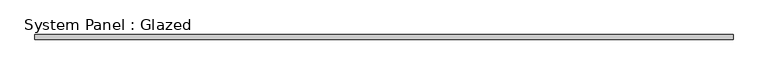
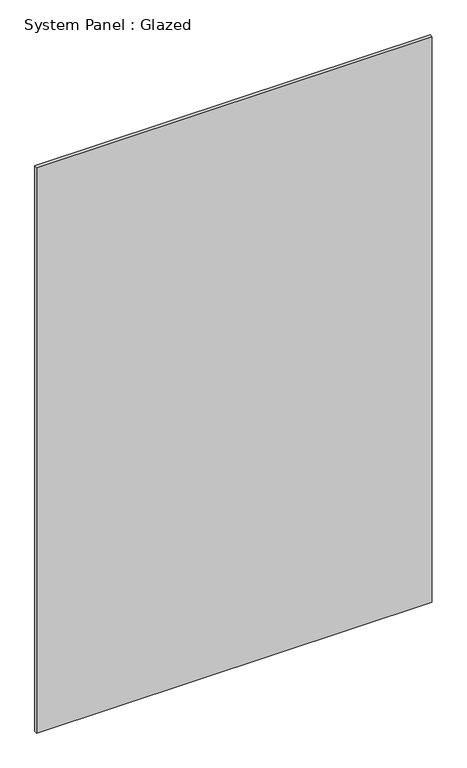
"""IFC4 building model written with IfcOpenShell, lengths in millimetres: plate geometry, System Panel : Glazed."""

from ifc_helpers import new_model, si_unit, origin, origin_with_axes, place, context, project, spatial, polyline, outline, extrude, source, transform, mapped, element, save


def system_panel_glazed_92606f17(model_context):
    return source(origin(), model_context, "Body", "SweptSolid", [
        extrude(outline(polyline([(695.0, 0.0), (-695.0, 0.0), (-695.0, 10.0), (695.0, 10.0), (695.0, 0.0)])), origin_with_axes(), (0.0, 0.0, 1.0), 2100.0),
    ])


if __name__ == "__main__":
    model = new_model("IFC4")
    model_context = context("Model", 3, world=origin())
    ifc_project = project(units=[si_unit("LENGTHUNIT", "METRE", prefix="MILLI")], contexts=[model_context])
    site = spatial("IfcSite", under=ifc_project)
    building = spatial("IfcBuilding", under=site)
    placement = place(None, origin())
    system_panel_glazed_shape = system_panel_glazed_92606f17(model_context)
    element("IfcPlate", 1, ObjectType="System Panel : Glazed", at=placement, inside=building, context=model_context, shape_type="MappedRepresentation", body=[
        mapped(system_panel_glazed_shape, transform((0.0, 0.0, 0.0), x_axis=(1.0, 0.0, 0.0), y_axis=(0.0, 1.0, 0.0), z_axis=(0.0, 0.0, 1.0))),
    ])
    save(model, "model.ifc")
